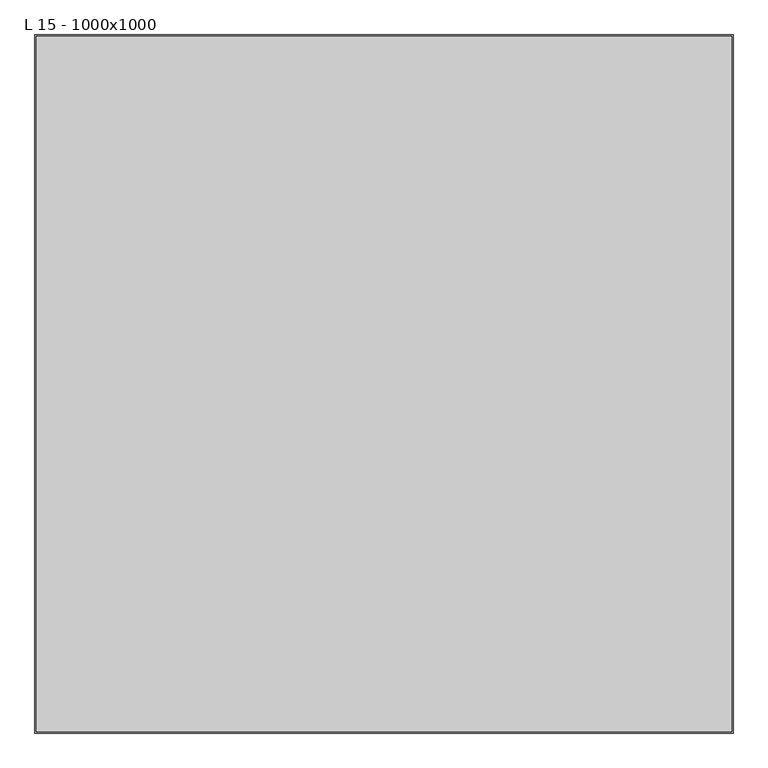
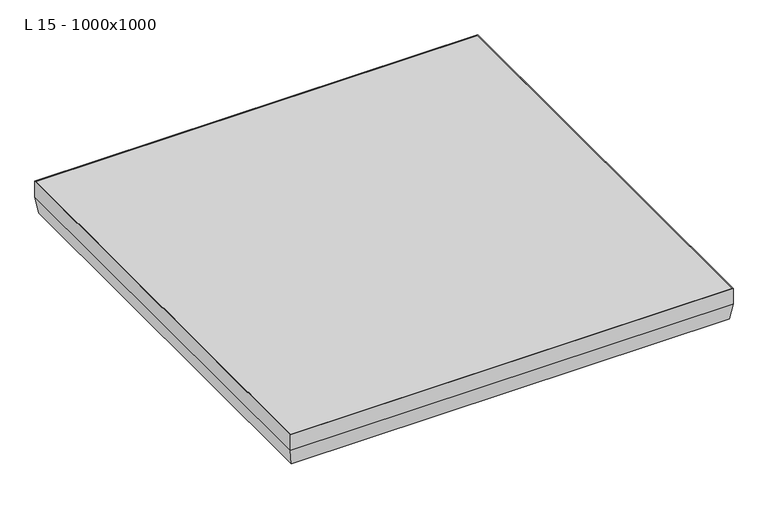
"""IFC4 building model written with IfcOpenShell, lengths in millimetres: proxy geometry, ME_ST_WPB_Access Cover UNIFACE SS FR_ACO : L 15 - 1000x1000."""

import ifcopenshell
import ifcopenshell.guid

model = None  # the IFC model being written
_history = None  # IfcOwnerHistory: only IFC2X3 demands one
_inside = {}  # id of a spatial element -> (the spatial element, [elements in it])
_under = {}  # id of a project, library or spatial element -> (it, [spatial elements below it])
_declared = {}  # id of a project -> (the project, [libraries it declares])
_typed = {}  # id of a type object -> (the type object, [elements of that type])
_made_of = {}  # id of a material, layer set ... -> (it, [elements and type objects made of it])


def new_model(schema):
    """Start an empty IFC model of exactly this schema.

    Asked for "IFC4X3", IfcOpenShell would pick the latest addendum, in which some entities
    have other attributes; the version numbers below select the first issue.
    IFC2X3 requires an IfcOwnerHistory on every rooted entity: one is made here for all.
    """
    global model, _history
    if schema == "IFC4X3":
        model = ifcopenshell.file(schema_version=(4, 3, 0, 0))
    else:
        model = ifcopenshell.file(schema=schema)
    _inside.clear()
    _under.clear()
    _declared.clear()
    _typed.clear()
    _made_of.clear()
    _history = None
    if model.schema == "IFC2X3":
        org = make("IfcOrganization", Name="unknown")
        user = make(
            "IfcPersonAndOrganization",
            ThePerson=make("IfcPerson", FamilyName="unknown"),
            TheOrganization=org,
        )
        app = make(
            "IfcApplication",
            ApplicationDeveloper=org,
            Version="unknown",
            ApplicationFullName="unknown",
            ApplicationIdentifier="unknown",
        )
        _history = make(
            "IfcOwnerHistory",
            OwningUser=user,
            OwningApplication=app,
            ChangeAction="ADDED",
            CreationDate=0,
        )
    return model


def make(cls, **values):
    """One entity of the class cls with the attributes given. An attribute that is None is left unset."""
    return model.create_entity(
        cls, **{name: value for name, value in values.items() if value is not None}
    )


def rooted(cls, **values):
    """An entity with a GlobalId (a new one), such as an element, a storey or a relation."""
    return make(cls, GlobalId=ifcopenshell.guid.new(), OwnerHistory=_history, **values)


def si_unit(unit_type, name, prefix=None):
    """IfcSIUnit, for example si_unit("LENGTHUNIT", "METRE", prefix="MILLI")."""
    return make("IfcSIUnit", UnitType=unit_type, Prefix=prefix, Name=name)


def assignment(units):
    """IfcUnitAssignment: the units of a project."""
    return None if units is None else make("IfcUnitAssignment", Units=units)


def point(xyz):
    """IfcCartesianPoint."""
    return None if xyz is None else make("IfcCartesianPoint", Coordinates=xyz)


def direction(xyz):
    """IfcDirection."""
    return None if xyz is None else make("IfcDirection", DirectionRatios=xyz)


def frame(location, z_axis=None, x_axis=None):
    """IfcAxis2Placement3D, a coordinate frame: its origin and axes. An axis left out is left unset."""
    return make(
        "IfcAxis2Placement3D",
        Location=point(location),
        Axis=direction(z_axis),
        RefDirection=direction(x_axis),
    )


def origin():
    """The frame at (0, 0, 0) with its axes left unset."""
    return frame((0.0, 0.0, 0.0))


def place(relative_to, where):
    """IfcLocalPlacement: puts the frame where relative to a parent placement (None: the world)."""
    return make(
        "IfcLocalPlacement", PlacementRelTo=relative_to, RelativePlacement=where
    )


def context(
    kind, dimensions, precision=None, world=None, true_north=None, identifier=None
):
    """IfcGeometricRepresentationContext, for example the 3D "Model" context."""
    return make(
        "IfcGeometricRepresentationContext",
        ContextIdentifier=identifier,
        ContextType=kind,
        CoordinateSpaceDimension=dimensions,
        Precision=precision,
        WorldCoordinateSystem=world,
        TrueNorth=true_north,
    )


def project(units=None, contexts=None):
    """IfcProject with its units and contexts."""
    return rooted(
        "IfcProject",
        Name="project",
        RepresentationContexts=contexts,
        UnitsInContext=assignment(units),
    )


def spatial(cls, under=None, at=None, **own):
    """A site, building, storey or space (cls), placed at a placement, below another one or the project."""
    s = rooted(cls, ObjectPlacement=at, **own)
    if under is not None:
        _under.setdefault(under.id(), (under, []))[1].append(s)
    return s


def polyline(points):
    """IfcPolyline through the points."""
    return make("IfcPolyline", Points=[point(p) for p in points])


def outline(outer, holes=None, kind="AREA"):
    """IfcArbitraryClosedProfileDef: a profile drawn as a closed curve; with holes, ...WithVoids."""
    if holes is None:
        return make("IfcArbitraryClosedProfileDef", ProfileType=kind, OuterCurve=outer)
    return make(
        "IfcArbitraryProfileDefWithVoids",
        ProfileType=kind,
        OuterCurve=outer,
        InnerCurves=holes,
    )


def extrude(swept, where, along, depth):
    """IfcExtrudedAreaSolid: the profile swept, set in the frame where, extruded along a direction by depth."""
    return make(
        "IfcExtrudedAreaSolid",
        SweptArea=swept,
        Position=where,
        ExtrudedDirection=direction(along),
        Depth=depth,
    )


def faces_of(points, faces, orient=None, outer=None):
    """IfcFace entities. A face is a list of loops; a loop is a list of indices into points, from 0.

    orient and outer hold one flag for each loop. By default every Orientation is true, the
    first loop of a face is its IfcFaceOuterBound and the others are IfcFaceBound.
    """
    made = []
    for i, loops in enumerate(faces):
        bounds = []
        for j, loop in enumerate(loops):
            is_outer = j == 0 if outer is None else outer[i][j]
            bounds.append(
                make(
                    "IfcFaceOuterBound" if is_outer else "IfcFaceBound",
                    Bound=make("IfcPolyLoop", Polygon=[points[k] for k in loop]),
                    Orientation=True if orient is None else orient[i][j],
                )
            )
        made.append(make("IfcFace", Bounds=bounds))
    return made


def faceted_brep(points, faces, orient=None, outer=None, voids=None):
    """IfcFacetedBrep: a solid bounded by flat faces; with voids (closed shells), ...WithVoids."""
    shared = [point(p) for p in points]
    hull = make("IfcClosedShell", CfsFaces=faces_of(shared, faces, orient, outer))
    if voids is None:
        return make("IfcFacetedBrep", Outer=hull)
    return make(
        "IfcFacetedBrepWithVoids",
        Outer=hull,
        Voids=[
            make(cls, CfsFaces=faces_of(shared, fs, o, b)) for cls, fs, o, b in voids
        ],
    )


def shape(context_of_items, identifier, shape_type, items):
    """IfcShapeRepresentation: the items that make up one representation, for example the "Body"."""
    return make(
        "IfcShapeRepresentation",
        ContextOfItems=context_of_items,
        RepresentationIdentifier=identifier,
        RepresentationType=shape_type,
        Items=items,
    )


def source(mapping_origin, context_of_items, identifier, shape_type, items):
    """IfcRepresentationMap: a shape defined once, which mapped items show again and again."""
    return make(
        "IfcRepresentationMap",
        MappingOrigin=mapping_origin,
        MappedRepresentation=shape(context_of_items, identifier, shape_type, items),
    )


def transform(
    local_origin,
    x_axis=None,
    y_axis=None,
    z_axis=None,
    scale=None,
    scale2=None,
    scale3=None,
    uniform=True,
):
    """IfcCartesianTransformationOperator3D, or its non-uniform kind. x_axis, y_axis, z_axis: its Axis1, 2, 3."""
    if uniform:
        return make(
            "IfcCartesianTransformationOperator3D",
            Axis1=direction(x_axis),
            Axis2=direction(y_axis),
            LocalOrigin=point(local_origin),
            Scale=scale,
            Axis3=direction(z_axis),
        )
    return make(
        "IfcCartesianTransformationOperator3DnonUniform",
        Axis1=direction(x_axis),
        Axis2=direction(y_axis),
        LocalOrigin=point(local_origin),
        Scale=scale,
        Axis3=direction(z_axis),
        Scale2=scale2,
        Scale3=scale3,
    )


def mapped(mapping_source, mapping_target):
    """IfcMappedItem: shows the shape of a source again, moved by a transform."""
    return make(
        "IfcMappedItem", MappingSource=mapping_source, MappingTarget=mapping_target
    )


def made_of(thing, what):
    """Note that an element or type object is made of a material, layer set ...; save() writes the relation."""
    if what is not None:
        _made_of.setdefault(what.id(), (what, []))[1].append(thing)
    return thing


def element(
    cls,
    number,
    at=None,
    inside=None,
    cuts=None,
    type_object=None,
    material=None,
    context=None,
    identifier="Body",
    shape_type=None,
    held_by="IfcProductDefinitionShape",
    body=None,
    shapes=None,
    **own,
):
    """One element of the class cls, such as IfcWall. Its Tag is "e" and its number.

    at: its placement. inside: the storey or other place that contains it. cuts: it is an
    opening in that element (IfcRelVoidsElement). A single representation is given by context,
    identifier, shape_type and body (its items); several are given by shapes. held_by: the class
    of the entity that holds the representations. save() writes the other relations.
    """
    e = rooted(cls, Tag="e%d" % number, ObjectPlacement=at, **own)
    if body is not None:
        shapes = [shape(context, identifier, shape_type, body)]
    if shapes is not None:
        e.Representation = make(held_by, Representations=shapes)
    if inside is not None:
        _inside.setdefault(inside.id(), (inside, []))[1].append(e)
    if cuts is not None:
        rooted(
            "IfcRelVoidsElement", RelatingBuildingElement=cuts, RelatedOpeningElement=e
        )
    if type_object is not None:
        _typed.setdefault(type_object.id(), (type_object, []))[1].append(e)
    return made_of(e, material)


def aggregate(whole, parts):
    """IfcRelAggregates: a whole, such as a stair, and the parts it consists of."""
    return rooted("IfcRelAggregates", RelatingObject=whole, RelatedObjects=parts)


def save(model, path):
    """Write the relations noted so far, then the file.

    IfcRelAggregates (storeys below a building ...), IfcRelContainedInSpatialStructure (elements
    in a storey), IfcRelDefinesByType, IfcRelAssociatesMaterial and IfcRelDeclares: one each for
    every whole, place, type object, material and project.
    """
    for whole, parts in _under.values():
        aggregate(whole, parts)
    for where, things in _inside.values():
        rooted(
            "IfcRelContainedInSpatialStructure",
            RelatedElements=things,
            RelatingStructure=where,
        )
    for kind, things in _typed.values():
        rooted("IfcRelDefinesByType", RelatedObjects=things, RelatingType=kind)
    for what, things in _made_of.values():
        rooted("IfcRelAssociatesMaterial", RelatedObjects=things, RelatingMaterial=what)
    for by, libraries in _declared.values():
        rooted("IfcRelDeclares", RelatingContext=by, RelatedDefinitions=libraries)
    model.write(path)


def l_15_1000x1000_f035bd7f(model_context):
    return source(origin(), model_context, "Body", "SolidModel", [
        extrude(outline(polyline([(488.0, 488.0), (488.0, -488.0), (-488.0, -488.0), (-488.0, 488.0), (488.0, 488.0)])), frame((0.0, 0.0, -95.0), z_axis=(0.0, 0.0, 1.0), x_axis=(1.0, 0.0, 0.0)), (0.0, 0.0, 1.0), 25.0),
        faceted_brep([(472.0, 472.0, -95.0), (472.0, 472.0, -97.0), (472.0, -472.0, -97.0), (472.0, -472.0, -95.0), (488.0, 488.0, -70.0), (488.0, 488.0, -95.0), (488.0, -488.0, -95.0), (488.0, -488.0, -70.0), (490.0, 490.0, -97.0), (490.0, 490.0, -70.0), (490.0, -490.0, -70.0), (490.0, -490.0, -97.0), (-472.0, -472.0, -97.0), (-472.0, -472.0, -95.0), (-488.0, -488.0, -95.0), (-488.0, -488.0, -70.0), (-490.0, -490.0, -70.0), (-490.0, -490.0, -97.0), (-472.0, 472.0, -97.0), (-472.0, 472.0, -95.0), (-488.0, 488.0, -95.0), (-488.0, 488.0, -70.0), (-490.0, 490.0, -70.0), (-490.0, 490.0, -97.0)], [[[0, 1, 2, 3]], [[4, 5, 6, 7]], [[8, 9, 10, 11]], [[3, 2, 12, 13]], [[7, 6, 14, 15]], [[11, 10, 16, 17]], [[13, 12, 18, 19]], [[15, 14, 20, 21]], [[17, 16, 22, 23]], [[11, 17, 23, 8], [1, 18, 12, 2]], [[19, 18, 1, 0]], [[5, 20, 14, 6], [3, 13, 19, 0]], [[21, 20, 5, 4]], [[9, 22, 16, 10], [7, 15, 21, 4]], [[23, 22, 9, 8]]]),
        extrude(outline(polyline([(500.0, 500.0), (500.0, -500.0), (-500.0, -500.0), (-500.0, 500.0), (500.0, 500.0)])), frame((0.0, 0.0, -70.0), z_axis=(0.0, 0.0, 1.0), x_axis=(1.0, 0.0, 0.0)), (0.0, 0.0, 1.0), 2.0),
        extrude(outline(polyline([(552.9610723, 552.9610723), (552.9610723, -552.9610723), (-552.9610723, -552.9610723), (-552.9610723, 552.9610723), (552.9610723, 552.9610723)])), frame((0.0, 0.0, -5.0), z_axis=(0.0, 0.0, 1.0), x_axis=(1.0, 0.0, 0.0)), (0.0, 0.0, 1.0), 5.0),
        faceted_brep([(552.9610723, 552.9610723, 0.0), (552.9610723, 552.9610723, -41.196546), (552.9610723, -552.9610723, -41.196546), (552.9610723, -552.9610723, 0.0), (554.9610723, 554.9610723, -41.3363997), (554.9610723, 554.9610723, 0.0), (554.9610723, -554.9610723, 0.0), (554.9610723, -554.9610723, -41.3363997), (-552.9610723, -552.9610723, -41.196546), (-552.9610723, -552.9610723, 0.0), (-554.9610723, -554.9610723, 0.0), (-554.9610723, -554.9610723, -41.3363997), (-552.9610723, 552.9610723, -41.196546), (-552.9610723, 552.9610723, 0.0), (-554.9610723, 554.9610723, 0.0), (-554.9610723, 554.9610723, -41.3363997), (547.3587115, 547.3587115, -80.5), (547.3587115, -547.3587115, -80.5), (-547.3587115, -547.3587115, -80.5), (-547.3587115, 547.3587115, -80.5), (500.0, -500.0, -80.5), (-500.0, -500.0, -80.5), (-500.0, 500.0, -80.5), (500.0, 500.0, -80.5), (549.0972849, 549.0972849, -82.5), (549.0972849, -549.0972849, -82.5), (-549.0972849, -549.0972849, -82.5), (-549.0972849, 549.0972849, -82.5), (502.0, 502.0, -82.5), (-502.0, 502.0, -82.5), (-502.0, -502.0, -82.5), (502.0, -502.0, -82.5), (502.0, 502.0, -98.5), (502.0, -502.0, -98.5), (500.0, 500.0, -98.5), (500.0, -500.0, -98.5), (-502.0, -502.0, -98.5), (-500.0, -500.0, -98.5), (-502.0, 502.0, -98.5), (-500.0, 500.0, -98.5)], [[[0, 1, 2, 3]], [[4, 5, 6, 7]], [[3, 2, 8, 9]], [[7, 6, 10, 11]], [[9, 8, 12, 13]], [[11, 10, 14, 15]], [[13, 12, 1, 0]], [[5, 14, 10, 6], [3, 9, 13, 0]], [[15, 14, 5, 4]], [[1, 16, 17, 2]], [[2, 17, 18, 8]], [[8, 18, 19, 12]], [[16, 19, 18, 17], [20, 21, 22, 23]], [[12, 19, 16, 1]], [[24, 4, 7, 25]], [[25, 7, 11, 26]], [[26, 11, 15, 27]], [[27, 15, 4, 24]], [[25, 26, 27, 24], [28, 29, 30, 31]], [[32, 28, 31, 33]], [[23, 34, 35, 20]], [[33, 31, 30, 36]], [[20, 35, 37, 21]], [[36, 30, 29, 38]], [[21, 37, 39, 22]], [[38, 29, 28, 32]], [[33, 36, 38, 32], [34, 39, 37, 35]], [[22, 39, 34, 23]]]),
    ])


if __name__ == "__main__":
    model = new_model("IFC4")
    model_context = context("Model", 3, world=origin())
    ifc_project = project(units=[si_unit("LENGTHUNIT", "METRE", prefix="MILLI")], contexts=[model_context])
    site = spatial("IfcSite", under=ifc_project)
    building = spatial("IfcBuilding", under=site)
    placement = place(None, origin())
    l_15_1000x1000_shape = l_15_1000x1000_f035bd7f(model_context)
    element("IfcBuildingElementProxy", 1, Name="ME_ST_WPB_Access Cover UNIFACE SS FR_ACO : L 15 - 1000x1000", ObjectType="ME_ST_WPB_Access Cover UNIFACE SS FR_ACO : L 15 - 1000x1000", at=placement, inside=building, context=model_context, shape_type="MappedRepresentation", body=[
        mapped(l_15_1000x1000_shape, transform((0.0, 0.0, 0.0), x_axis=(1.0, 0.0, 0.0), y_axis=(0.0, 1.0, 0.0), z_axis=(0.0, 0.0, 1.0))),
    ])
    save(model, "model.ifc")
